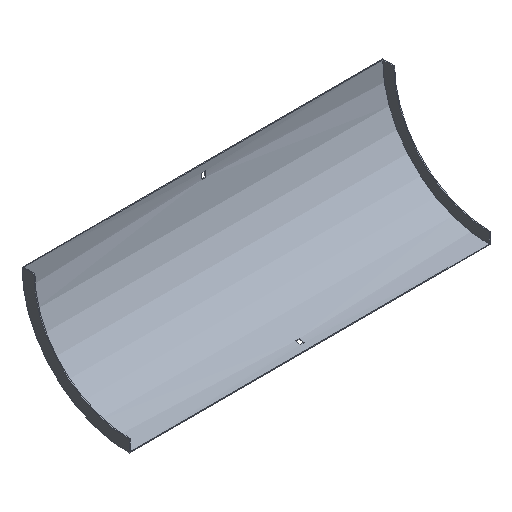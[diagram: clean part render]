
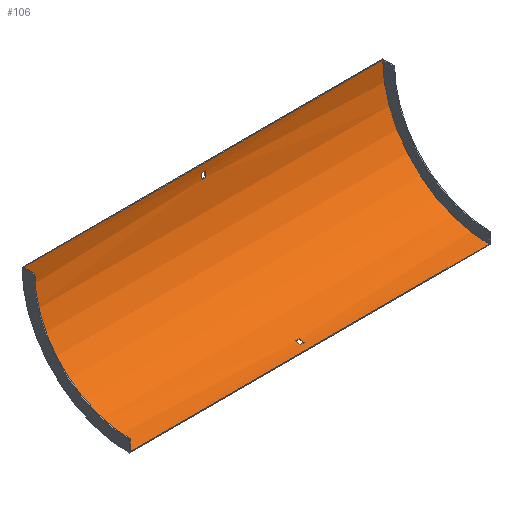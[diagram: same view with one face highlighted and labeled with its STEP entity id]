
A CAD part, isometric view. The second image highlights one B-rep face of the part: STEP entity #106.
In plain terms, the highlighted cylindrical face has radius 179 mm (diameter 358 mm), a partial arc.
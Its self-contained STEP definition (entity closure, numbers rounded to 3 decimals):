
#2 = VERTEX_POINT ( 'NONE', #468 ) ;
#12 = DIRECTION ( 'NONE',  ( 0., 0., 1. ) ) ;
#38 = EDGE_CURVE ( 'NONE', #2, #363, #447, .T. ) ;
#39 = DIRECTION ( 'NONE',  ( -1., 0., 0. ) ) ;
#45 = CARTESIAN_POINT ( 'NONE',  ( 3.25, -180.5, 0. ) ) ;
#50 = DIRECTION ( 'NONE',  ( 0., 0., -1. ) ) ;
#52 = VERTEX_POINT ( 'NONE', #418 ) ;
#55 = ORIENTED_EDGE ( 'NONE', *, *, #157, .F. ) ;
#61 = CARTESIAN_POINT ( 'NONE',  ( 303.5, -180.5, 0. ) ) ;
#62 = EDGE_CURVE ( 'NONE', #511, #435, #366, .T. ) ;
#91 = CARTESIAN_POINT ( 'NONE',  ( 302., -1.5, 0. ) ) ;
#92 = ORIENTED_EDGE ( 'NONE', *, *, #38, .T. ) ;
#94 = VECTOR ( 'NONE', #178, 1000. ) ;
#104 = CARTESIAN_POINT ( 'NONE',  ( -3.25, -180.5, 0. ) ) ;
#106 = ADVANCED_FACE ( 'NONE', ( #526, #143, #569 ), #381, .F. ) ;
#129 = CARTESIAN_POINT ( 'NONE',  ( 302., -180.5, -179. ) ) ;
#136 = ORIENTED_EDGE ( 'NONE', *, *, #164, .T. ) ;
#143 = FACE_OUTER_BOUND ( 'NONE', #464, .T. ) ;
#151 = CARTESIAN_POINT ( 'NONE',  ( -302., -180.5, 0. ) ) ;
#157 = EDGE_CURVE ( 'NONE', #252, #408, #331, .T. ) ;
#159 = ORIENTED_EDGE ( 'NONE', *, *, #413, .F. ) ;
#160 = CARTESIAN_POINT ( 'NONE',  ( -302., -180.5, -179. ) ) ;
#162 = CIRCLE ( 'NONE', #472, 179. ) ;
#164 = EDGE_CURVE ( 'NONE', #316, #172, #162, .T. ) ;
#171 = CARTESIAN_POINT ( 'NONE',  ( 3.25, -159.5, -177.764 ) ) ;
#172 = VERTEX_POINT ( 'NONE', #239 ) ;
#175 = ORIENTED_EDGE ( 'NONE', *, *, #62, .F. ) ;
#176 = DIRECTION ( 'NONE',  ( 0., 0., -1. ) ) ;
#178 = DIRECTION ( 'NONE',  ( -1., 0., 0. ) ) ;
#180 = AXIS2_PLACEMENT_3D ( 'NONE', #151, #191, #284 ) ;
#185 = LINE ( 'NONE', #129, #94 ) ;
#191 = DIRECTION ( 'NONE',  ( 1., 0., 0. ) ) ;
#192 = VECTOR ( 'NONE', #39, 1000. ) ;
#213 = LINE ( 'NONE', #455, #410 ) ;
#218 = CARTESIAN_POINT ( 'NONE',  ( 3.25, -168.5, -178.597 ) ) ;
#220 = ORIENTED_EDGE ( 'NONE', *, *, #306, .T. ) ;
#236 = DIRECTION ( 'NONE',  ( 1., 0., 0. ) ) ;
#239 = CARTESIAN_POINT ( 'NONE',  ( -3.25, -159.5, -177.764 ) ) ;
#244 = DIRECTION ( 'NONE',  ( -1., 0., 0. ) ) ;
#247 = AXIS2_PLACEMENT_3D ( 'NONE', #404, #588, #407 ) ;
#252 = VERTEX_POINT ( 'NONE', #160 ) ;
#257 = VECTOR ( 'NONE', #244, 1000. ) ;
#263 = VECTOR ( 'NONE', #339, 1000. ) ;
#266 = ORIENTED_EDGE ( 'NONE', *, *, #556, .F. ) ;
#272 = VERTEX_POINT ( 'NONE', #460 ) ;
#275 = VERTEX_POINT ( 'NONE', #171 ) ;
#284 = DIRECTION ( 'NONE',  ( 0., 0., 1. ) ) ;
#285 = LINE ( 'NONE', #378, #257 ) ;
#288 = LINE ( 'NONE', #601, #192 ) ;
#293 = VERTEX_POINT ( 'NONE', #218 ) ;
#298 = DIRECTION ( 'NONE',  ( -1., 0., 0. ) ) ;
#299 = EDGE_CURVE ( 'NONE', #172, #275, #213, .T. ) ;
#301 = LINE ( 'NONE', #439, #451 ) ;
#305 = DIRECTION ( 'NONE',  ( 1., 0., 0. ) ) ;
#306 = EDGE_CURVE ( 'NONE', #275, #293, #351, .T. ) ;
#308 = AXIS2_PLACEMENT_3D ( 'NONE', #465, #509, #462 ) ;
#316 = VERTEX_POINT ( 'NONE', #545 ) ;
#321 = EDGE_CURVE ( 'NONE', #272, #52, #517, .T. ) ;
#331 = CIRCLE ( 'NONE', #180, 179. ) ;
#339 = DIRECTION ( 'NONE',  ( 1., 0., 0. ) ) ;
#345 = LINE ( 'NONE', #535, #263 ) ;
#351 = CIRCLE ( 'NONE', #604, 179. ) ;
#356 = EDGE_LOOP ( 'NONE', ( #461, #136, #533, #220 ) ) ;
#363 = VERTEX_POINT ( 'NONE', #91 ) ;
#366 = CIRCLE ( 'NONE', #516, 179. ) ;
#378 = CARTESIAN_POINT ( 'NONE',  ( 303.5, -168.5, -178.597 ) ) ;
#381 = CYLINDRICAL_SURFACE ( 'NONE', #470, 179. ) ;
#383 = DIRECTION ( 'NONE',  ( -1., 0., 0. ) ) ;
#386 = EDGE_CURVE ( 'NONE', #293, #316, #285, .T. ) ;
#390 = EDGE_CURVE ( 'NONE', #363, #408, #288, .T. ) ;
#404 = CARTESIAN_POINT ( 'NONE',  ( -3.25, -180.5, 0. ) ) ;
#407 = DIRECTION ( 'NONE',  ( 0., 0., 1. ) ) ;
#408 = VERTEX_POINT ( 'NONE', #480 ) ;
#410 = VECTOR ( 'NONE', #305, 1000. ) ;
#413 = EDGE_CURVE ( 'NONE', #2, #252, #185, .T. ) ;
#418 = CARTESIAN_POINT ( 'NONE',  ( -3.25, -2.736, -21. ) ) ;
#435 = VERTEX_POINT ( 'NONE', #521 ) ;
#439 = CARTESIAN_POINT ( 'NONE',  ( 303.5, -1.903, -12. ) ) ;
#442 = DIRECTION ( 'NONE',  ( 1., 0., 0. ) ) ;
#447 = CIRCLE ( 'NONE', #308, 179. ) ;
#451 = VECTOR ( 'NONE', #383, 1000. ) ;
#453 = DIRECTION ( 'NONE',  ( -1., 0., 0. ) ) ;
#454 = EDGE_LOOP ( 'NONE', ( #568, #266, #175, #574 ) ) ;
#455 = CARTESIAN_POINT ( 'NONE',  ( 303.5, -159.5, -177.764 ) ) ;
#460 = CARTESIAN_POINT ( 'NONE',  ( -3.25, -1.903, -12. ) ) ;
#461 = ORIENTED_EDGE ( 'NONE', *, *, #386, .T. ) ;
#462 = DIRECTION ( 'NONE',  ( 0., 0., 1. ) ) ;
#464 = EDGE_LOOP ( 'NONE', ( #55, #159, #92, #519 ) ) ;
#465 = CARTESIAN_POINT ( 'NONE',  ( 302., -180.5, 0. ) ) ;
#468 = CARTESIAN_POINT ( 'NONE',  ( 302., -180.5, -179. ) ) ;
#470 = AXIS2_PLACEMENT_3D ( 'NONE', #61, #298, #12 ) ;
#472 = AXIS2_PLACEMENT_3D ( 'NONE', #104, #442, #50 ) ;
#480 = CARTESIAN_POINT ( 'NONE',  ( -302., -1.5, 0. ) ) ;
#490 = CARTESIAN_POINT ( 'NONE',  ( 3.25, -2.736, -21. ) ) ;
#494 = CARTESIAN_POINT ( 'NONE',  ( 3.25, -180.5, 0. ) ) ;
#509 = DIRECTION ( 'NONE',  ( 1., 0., 0. ) ) ;
#511 = VERTEX_POINT ( 'NONE', #490 ) ;
#516 = AXIS2_PLACEMENT_3D ( 'NONE', #45, #236, #176 ) ;
#517 = CIRCLE ( 'NONE', #247, 179. ) ;
#519 = ORIENTED_EDGE ( 'NONE', *, *, #390, .T. ) ;
#521 = CARTESIAN_POINT ( 'NONE',  ( 3.25, -1.903, -12. ) ) ;
#526 = FACE_BOUND ( 'NONE', #454, .T. ) ;
#533 = ORIENTED_EDGE ( 'NONE', *, *, #299, .T. ) ;
#535 = CARTESIAN_POINT ( 'NONE',  ( 303.5, -2.736, -21. ) ) ;
#545 = CARTESIAN_POINT ( 'NONE',  ( -3.25, -168.5, -178.597 ) ) ;
#556 = EDGE_CURVE ( 'NONE', #435, #272, #301, .T. ) ;
#558 = EDGE_CURVE ( 'NONE', #52, #511, #345, .T. ) ;
#568 = ORIENTED_EDGE ( 'NONE', *, *, #321, .F. ) ;
#569 = FACE_BOUND ( 'NONE', #356, .T. ) ;
#574 = ORIENTED_EDGE ( 'NONE', *, *, #558, .F. ) ;
#583 = DIRECTION ( 'NONE',  ( 0., 0., 1. ) ) ;
#588 = DIRECTION ( 'NONE',  ( -1., 0., 0. ) ) ;
#601 = CARTESIAN_POINT ( 'NONE',  ( 302., -1.5, 0. ) ) ;
#604 = AXIS2_PLACEMENT_3D ( 'NONE', #494, #453, #583 ) ;
